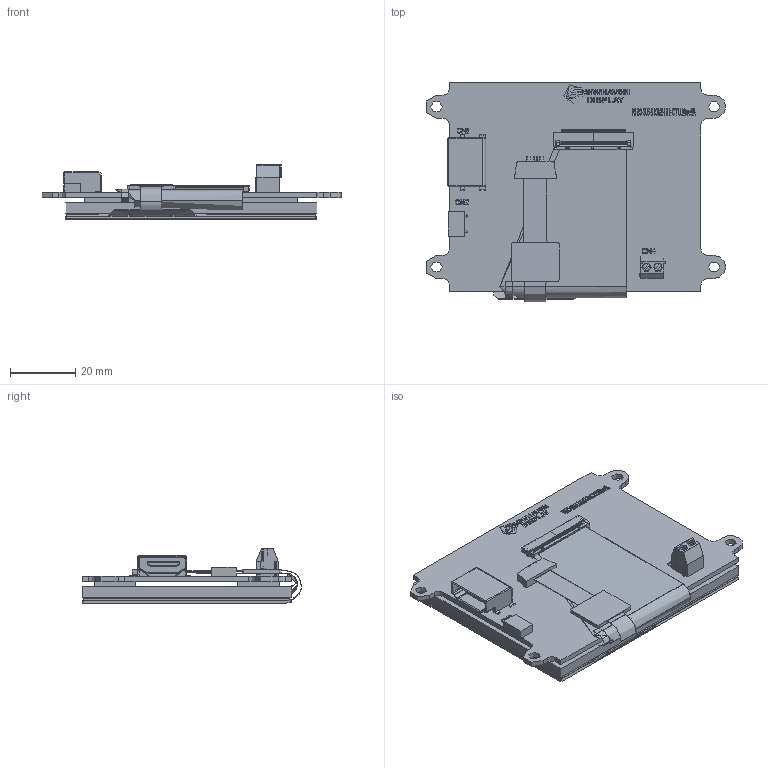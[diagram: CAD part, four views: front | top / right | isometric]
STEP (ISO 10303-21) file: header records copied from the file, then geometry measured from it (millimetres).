
FILE_DESCRIPTION (( 'STEP AP203' ), '1' );
FILE_NAME ('NHD-3.5-HDMI-HR-RSXP-CTU_250519.STEP', '2025-05-20T20:45:13', ( '' ), ( '' ), 'SwSTEP 2.0', 'SolidWorks 2019', '' );
FILE_SCHEMA (( 'CONFIG_CONTROL_DESIGN' ));
Products named in the file (1): NHD-3.5-HDMI-HR-RSXP-CTU_250519
Bounding box: 91.55 x 67.03 x 16.55 mm (x, y, z)
Topology: 0 solids, 657 shells, 6195 faces, 19879 edges, 14286 vertices
Faces by surface type: plane 4421, cylinder 1714, bspline 52, cone 8
Full cylindrical faces by diameter (mm): 0.2 x4
Entity records: 223084 total; most frequent: CARTESIAN_POINT 52218, ORIENTED_EDGE 34936, DIRECTION 32824, EDGE_CURVE 19883, VERTEX_POINT 14286, LINE 13728, VECTOR 13728, AXIS2_PLACEMENT_3D 9548
